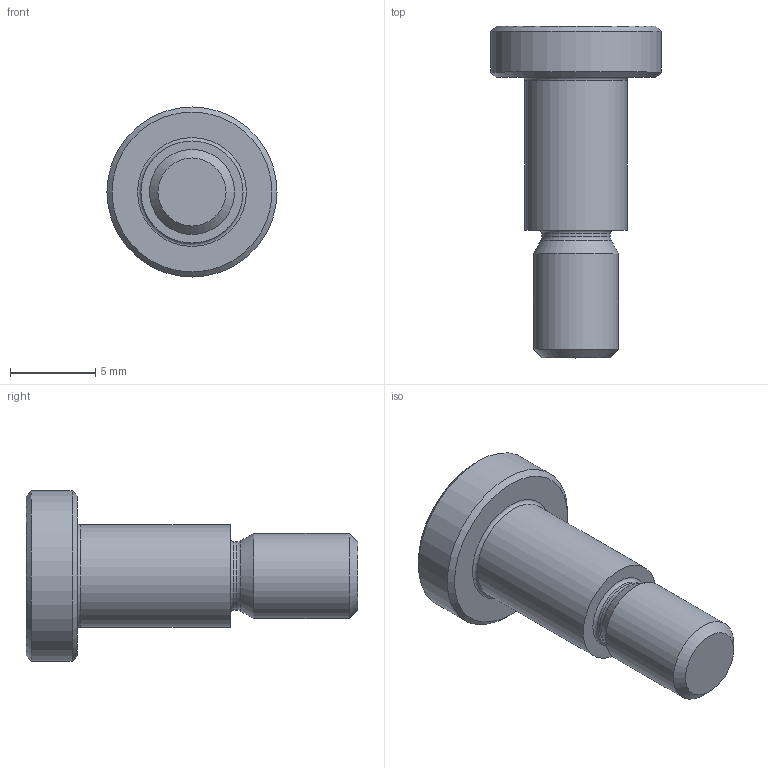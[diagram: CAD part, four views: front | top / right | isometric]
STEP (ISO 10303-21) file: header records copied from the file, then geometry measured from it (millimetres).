
FILE_DESCRIPTION (( 'STEP AP214' ), '1' );
FILE_NAME ('N30184.step', '2024-12-03T16:27:13', ( '' ), ( '' ), 'SwSTEP 2.0', 'SolidWorks 2023', '' );
FILE_SCHEMA (( 'AUTOMOTIVE_DESIGN' ));
Length unit declared in the file: millimetre
Products named in the file (1): N30184
Bounding box: 10 x 19.5 x 10 mm (x, y, z)
Volume: 602.9 mm3; surface area: 557.1 mm2
Topology: 1 solids, 1 shells, 22 faces, 47 edges, 30 vertices
Faces by surface type: plane 11, cylinder 4, cone 4, torus 3
Full cylindrical faces by diameter (mm): 4 x1, 5 x1, 6 x1, 10 x1
Entity records: 525 total; most frequent: DIRECTION 92, CARTESIAN_POINT 81, ORIENTED_EDGE 64, AXIS2_PLACEMENT_3D 37, EDGE_LOOP 36, EDGE_CURVE 32, FACE_OUTER_BOUND 29, VERTEX_POINT 26
